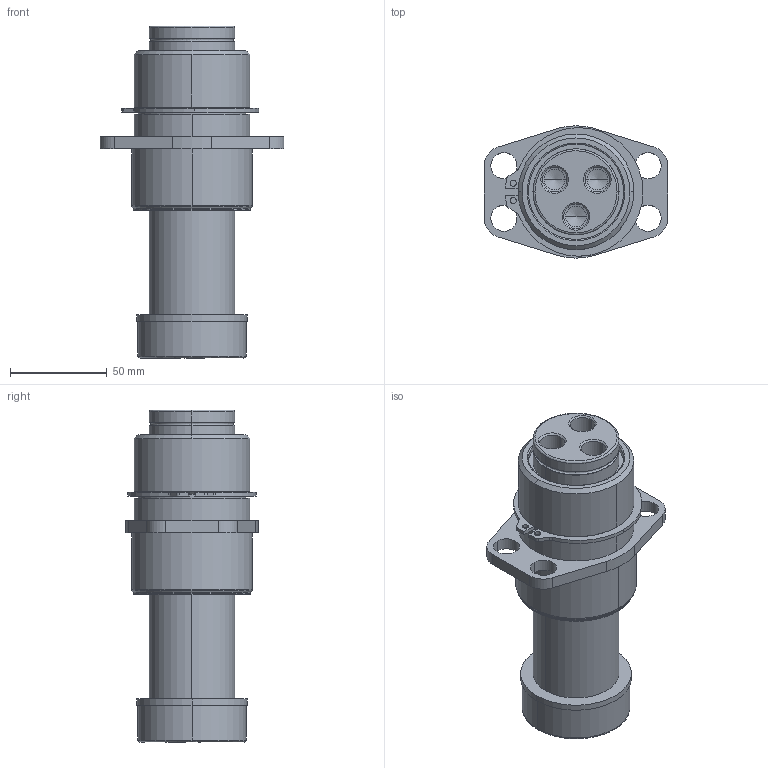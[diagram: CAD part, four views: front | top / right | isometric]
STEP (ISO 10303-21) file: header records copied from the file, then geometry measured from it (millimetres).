
FILE_DESCRIPTION (( 'STEP AP214' ), '1' );
FILE_NAME ('GK180-N3-2-BP-E-XXX.STEP', '2020-09-22T11:32:37', ( '' ), ( '' ), 'SwSTEP 2.0', 'SolidWorks 2017', '' );
FILE_SCHEMA (( 'AUTOMOTIVE_DESIGN' ));
Length unit declared in the file: inch
Products named in the file (7): GK180-DampeningWasher; GK1.75-N3-2-BP-Base; GK180-E-XXX-GuidePin; GK180-N3-2-BP-E-XXX; RetainingRing
Assembly tree (6 placements, depth 3):
  GK180-N3-2-BP-E-XXX
    GK1.75-N3-2-BP-Base
      GK1.75-N3-2-BP-Base
      RetainingRing
    GK180-E-XXX-GuidePin
      GK180-E-XXX-GuidePin
      GK180-DampeningWasher
Bounding box: 94.79 x 68.33 x 171.45 mm (x, y, z)
Volume: 394484.9 mm3; surface area: 74592.3 mm2
Topology: 4 solids, 4 shells, 149 faces, 344 edges, 210 vertices
Faces by surface type: cylinder 69, bspline 30, plane 26, cone 24
Entity records: 5818 total; most frequent: CARTESIAN_POINT 2046, DIRECTION 738, ORIENTED_EDGE 676, EDGE_CURVE 338, AXIS2_PLACEMENT_3D 302, VERTEX_POINT 210, EDGE_LOOP 178, CIRCLE 172
